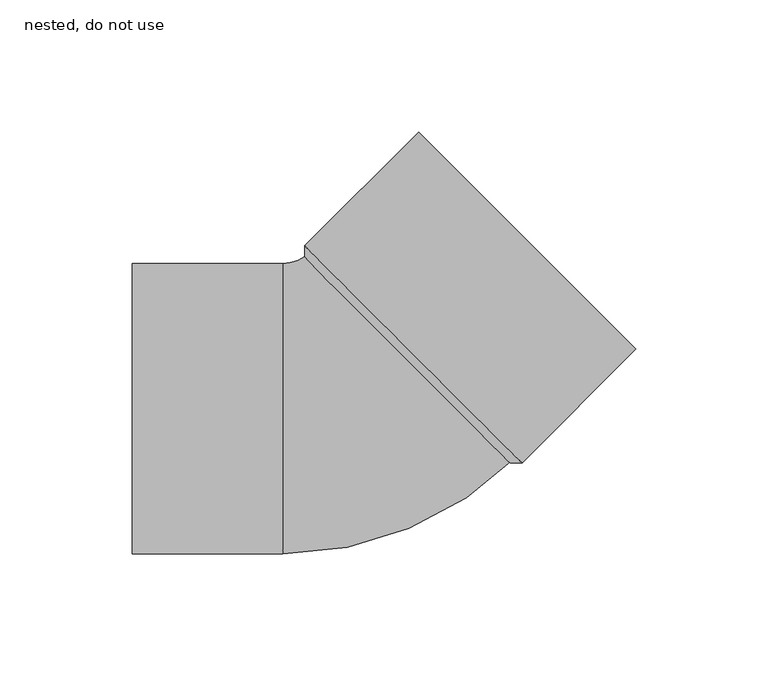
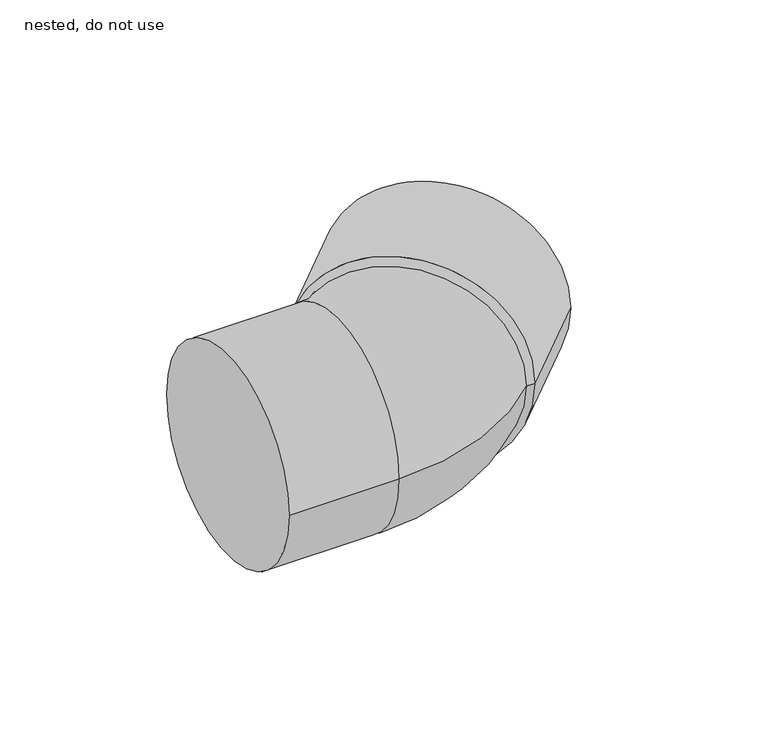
"""IFC4 building model written with IfcOpenShell, lengths in millimetres: pipe fitting geometry, NLRS_52_PIF_UN_Vacurain Flex bocht 1LV_SH_Dyka : nested, do not use."""

from ifc_helpers import new_model, si_unit, point, frame, origin, place, context, project, spatial, polyline, circle_curve, ellipse_curve, trimmed, source, transform, mapped, element, save
from ifc_brep_helpers import plane_surface, cylinder_surface, revolved_surface, advanced_brep


def nested_do_not_use_1dabd0ae(model_context):
    return source(origin(), model_context, "Body", "AdvancedBrep", [
        advanced_brep(
        [(104.793225, 22.4859956, 0.0), (22.4859956, 104.793225, 0.0), (24.7487373, 102.5304833, 0.0), (102.5304833, 24.7487373, 0.0), (61.6597113, -20.647518, 0.0), (-20.647518, 61.6597113, 0.0), (57.1342279, -20.647518, 0.0), (-20.647518, 57.1342279, 0.0)],
        [
            (0, 1, circle_curve(frame((63.6396103, 63.6396103, 0.0), z_axis=(0.7071067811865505, 0.7071067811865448, 0.0), x_axis=(-0.7071067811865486, 0.7071067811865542, 0.0)), 58.2)),
            (1, 2),
            (2, 3, circle_curve(frame((63.6396103, 63.6396103, 0.0), z_axis=(-0.7071067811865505, -0.7071067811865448, 0.0), x_axis=(-0.7071067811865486, 0.7071067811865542, 0.0)), 55.0)),
            (3, 0),
            (1, 0, circle_curve(frame((63.6396103, 63.6396103, 0.0), z_axis=(0.7071067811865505, 0.7071067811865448, 0.0), x_axis=(-0.7071067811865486, 0.7071067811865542, 0.0)), 58.2)),
            (3, 2, circle_curve(frame((63.6396103, 63.6396103, 0.0), z_axis=(-0.7071067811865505, -0.7071067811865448, 0.0), x_axis=(-0.7071067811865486, 0.7071067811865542, 0.0)), 55.0)),
            (4, 5, circle_curve(frame((20.5060967, 20.5060967, 0.0), z_axis=(0.7071067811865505, 0.7071067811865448, 0.0), x_axis=(-0.7071067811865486, 0.7071067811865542, 0.0)), 58.2)),
            (5, 1),
            (0, 4),
            (5, 4, circle_curve(frame((20.5060967, 20.5060967, 0.0), z_axis=(0.7071067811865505, 0.7071067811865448, 0.0), x_axis=(-0.7071067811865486, 0.7071067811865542, 0.0)), 58.2)),
            (6, 7, circle_curve(frame((18.243355, 18.243355, 0.0), z_axis=(0.7071067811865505, 0.7071067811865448, 0.0), x_axis=(-0.7071067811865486, 0.7071067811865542, 0.0)), 55.0)),
            (7, 5),
            (4, 6),
            (7, 6, circle_curve(frame((18.243355, 18.243355, 0.0), z_axis=(0.7071067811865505, 0.7071067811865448, 0.0), x_axis=(-0.7071067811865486, 0.7071067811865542, 0.0)), 55.0)),
            (2, 7),
            (6, 3),
        ],
        [
            plane_surface(frame((63.6396103, 63.6396103, 0.0), z_axis=(0.7071067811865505, 0.7071067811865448, 0.0), x_axis=(-0.7071067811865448, 0.7071067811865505, 0.0))),
            cylinder_surface(frame((20.5060967, 20.5060967, 0.0), z_axis=(-0.7071067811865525, -0.7071067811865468, 0.0), x_axis=(-0.7071067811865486, 0.7071067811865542, 0.0)), 58.2),
            revolved_surface(polyline([(-20.647518, 61.6597113, 0.0), (-20.647518, 57.1342279, 0.0)]), (20.5060967, 20.5060967, 0.0), (-0.7071067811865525, -0.7071067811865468, 0.0)),
            revolved_surface(polyline([(-20.647518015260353, 57.134227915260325, 0.0), (24.74873733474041, 102.53048326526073, 0.0)]), (20.5060967, 20.5060967, 0.0), (-0.7071067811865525, -0.7071067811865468, 0.0)),
        ],
        [
            (0, [[1, 2, 3, 4]]),
            (0, [[5, -4, 6, -2]]),
            (1, [[7, 8, -1, 9]]),
            (1, [[10, -9, -5, -8]]),
            (2, [[11, 12, -7, 13]]),
            (2, [[14, -13, -10, -12]]),
            (3, [[-3, 15, -11, 16]]),
            (3, [[-6, -16, -14, -15]]),
        ],
    ),
        advanced_brep(
        [(-86.0, -55.0, 0.0), (-86.0, 55.0, 0.0), (-29.0, -55.0, 0.0), (-29.0, 55.0, 0.0), (59.3969696, -18.3847763, 0.0), (20.5041716, 20.5080217, 54.9999999), (-18.3847763, 59.3969696, 0.0), (20.5041716, 20.5080217, -54.9999999)],
        [
            (0, 1, circle_curve(frame((-86.0, 0.0, 0.0), z_axis=(-1.0, 0.0, 0.0), x_axis=(0.0, 1.0, 0.0)), 55.0)),
            (1, 0, circle_curve(frame((-86.0, 0.0, 0.0), z_axis=(-1.0, 0.0, 0.0), x_axis=(0.0, 1.0, 0.0)), 55.0)),
            (0, 2),
            (2, 3, circle_curve(frame((-29.0, 0.0, 0.0), z_axis=(-1.0, 0.0, 0.0), x_axis=(0.0, 1.0, 0.0)), 55.0)),
            (3, 1),
            (3, 2, circle_curve(frame((-29.0, 0.0, 0.0), z_axis=(-1.0, 0.0, 0.0), x_axis=(0.0, 1.0, 0.0)), 55.0)),
            (2, 4, circle_curve(frame((-29.0, 70.0121933, 0.0), z_axis=(0.0, 0.0, 1.0), x_axis=(0.0, -1.0, 0.0)), 125.0121933)),
            (4, 5, circle_curve(frame((20.5060967, 20.5060967, 0.0), z_axis=(-0.707106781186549, -0.7071067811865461, 0.0), x_axis=(-0.7071067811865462, 0.7071067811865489, 0.0)), 55.0)),
            (5, 6, circle_curve(frame((20.5060967, 20.5060967, 0.0), z_axis=(-0.7071067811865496, -0.7071067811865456, 0.0), x_axis=(-0.7071067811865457, 0.7071067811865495, 0.0)), 55.0)),
            (6, 3, circle_curve(frame((-29.0, 70.0121933, 0.0), z_axis=(0.0, 0.0, -1.0), x_axis=(0.0, -1.0, 0.0)), 15.0121933)),
            (6, 7, circle_curve(frame((20.5060967, 20.5060967, 0.0), z_axis=(-0.7071067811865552, -0.7071067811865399, 0.0), x_axis=(-0.70710678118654, 0.7071067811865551, 0.0)), 55.0)),
            (7, 4, circle_curve(frame((20.5060967, 20.5060967, 0.0), z_axis=(-0.7071067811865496, -0.7071067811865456, 0.0), x_axis=(-0.7071067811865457, 0.7071067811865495, 0.0)), 55.0)),
        ],
        [
            plane_surface(frame((-86.0, 0.0, 0.0), z_axis=(-1.0, 0.0, 0.0), x_axis=(0.0, 0.0, 1.0))),
            cylinder_surface(frame((-86.0, 0.0, 0.0), z_axis=(-1.0, 0.0, 0.0), x_axis=(0.0, 1.0, 0.0)), 55.0),
            revolved_surface(trimmed(ellipse_curve(frame((-29.0, 0.0, 0.0), z_axis=(-1.0000000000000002, 0.0, 0.0), x_axis=(0.0, 1.0, 0.0)), 55.0, 55.0), [point((-29.0, -55.0, 0.0))], [point((-29.0, 55.0, 0.0))], True, "CARTESIAN"), (-29.0, 70.0121933, 0.0), (0.0, 0.0, 1.0000000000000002)),
            revolved_surface(trimmed(ellipse_curve(frame((-29.0, 0.0, 0.0), z_axis=(-1.0000000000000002, 0.0, 0.0), x_axis=(0.0, 1.0, 0.0)), 55.0, 55.0), [point((-29.0, 55.0, 0.0))], [point((-29.0, -55.0, 0.0))], True, "CARTESIAN"), (-29.0, 70.0121933, 0.0), (0.0, 0.0, 1.0000000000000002)),
            plane_surface(frame((20.5060967, 20.5060967, 0.0), z_axis=(0.707106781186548, 0.707106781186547, 0.0), x_axis=(0.0, 0.0, 1.0))),
        ],
        [
            (0, [[1, 2]]),
            (1, [[-1, 3, 4, 5]]),
            (1, [[-2, -5, 6, -3]]),
            (2, [[-4, 7, 8, 9, 10]]),
            (3, [[-6, -10, 11, 12, -7]]),
            (4, [[-8, -12, -11, -9]]),
        ],
    ),
    ])


if __name__ == "__main__":
    model = new_model("IFC4")
    model_context = context("Model", 3, world=origin())
    ifc_project = project(units=[si_unit("LENGTHUNIT", "METRE", prefix="MILLI")], contexts=[model_context])
    site = spatial("IfcSite", under=ifc_project)
    building = spatial("IfcBuilding", under=site)
    placement = place(None, origin())
    nested_do_not_use_shape = nested_do_not_use_1dabd0ae(model_context)
    element("IfcPipeFitting", 1, ObjectType="NLRS_52_PIF_UN_Vacurain Flex bocht 1LV_SH_Dyka : nested, do not use", at=placement, inside=building, context=model_context, shape_type="MappedRepresentation", body=[
        mapped(nested_do_not_use_shape, transform((0.0, 0.0, 0.0), x_axis=(1.0, 0.0, 0.0), y_axis=(0.0, 1.0, 0.0), z_axis=(0.0, 0.0, 1.0))),
    ])
    save(model, "model.ifc")
